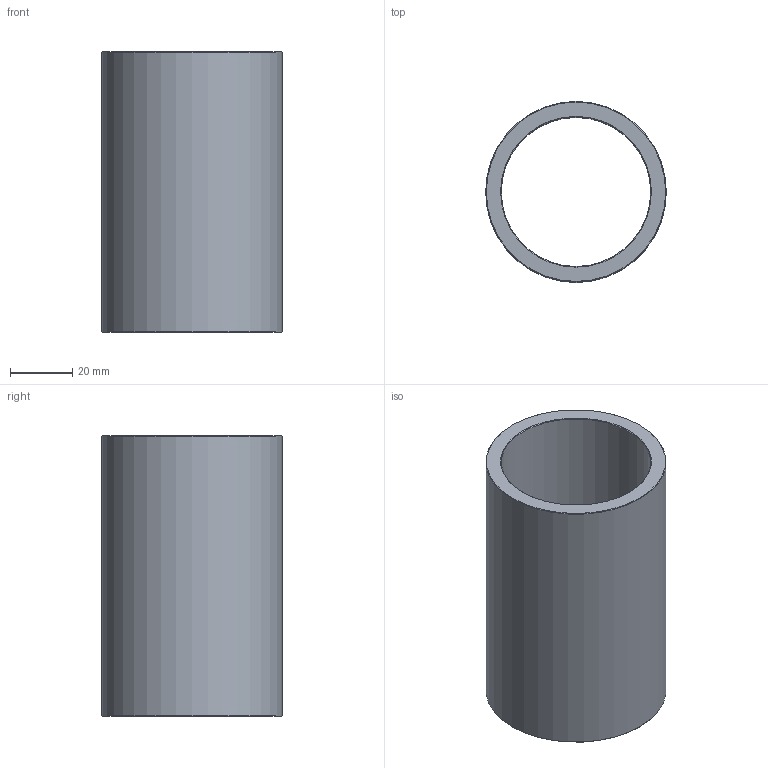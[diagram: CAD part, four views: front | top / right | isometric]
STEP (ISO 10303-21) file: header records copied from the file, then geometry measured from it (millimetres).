
FILE_DESCRIPTION(('STEP AP203'),'1');
FILE_NAME('C:/Users/Rodrigo/Desktop/GA5.048.090-1.step','2016-11-07T20:08:24',(' '),(' '),'Spatial InterOp 3D',' ',' ');
FILE_SCHEMA(('CONFIG_CONTROL_DESIGN'));
Length unit declared in the file: millimetre
Products named in the file (1): 1
Bounding box: 58 x 58 x 90 mm (x, y, z)
Volume: 74913.7 mm3; surface area: 31557.8 mm2
Topology: 1 solids, 1 shells, 8 faces, 14 edges, 8 vertices
Faces by surface type: cone 4, cylinder 2, plane 2
Full cylindrical faces by diameter (mm): 48 x1, 58 x1
Entity records: 212 total; most frequent: DIRECTION 34, CARTESIAN_POINT 25, AXIS2_PLACEMENT_3D 17, EDGE_LOOP 16, ORIENTED_EDGE 16, FACE_OUTER_BOUND 10, ADVANCED_FACE 8, EDGE_CURVE 8
